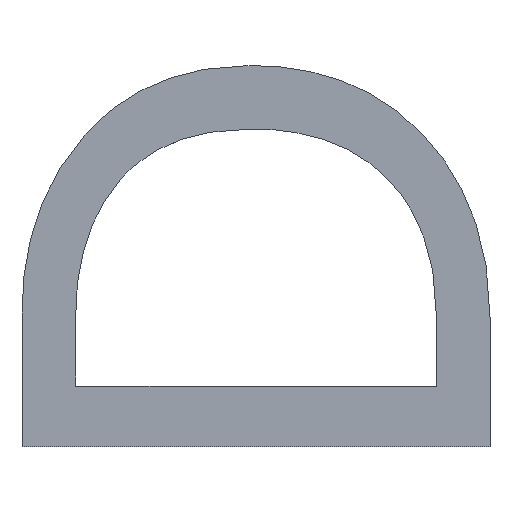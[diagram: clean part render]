
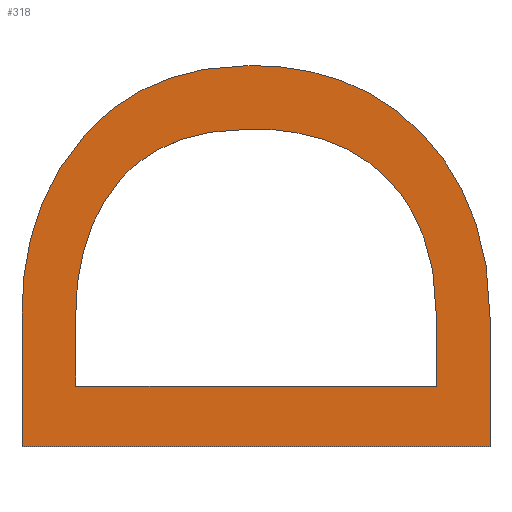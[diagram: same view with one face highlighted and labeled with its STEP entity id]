
A CAD part, top view. The second image highlights one B-rep face of the part: STEP entity #318.
In plain terms, the highlighted planar face has unit normal (0, 0, 1).
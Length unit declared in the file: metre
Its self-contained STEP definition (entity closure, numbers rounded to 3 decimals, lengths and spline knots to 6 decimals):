
#19=PLANE('',#435);
#27=LINE('',#565,#53);
#30=LINE('',#571,#56);
#32=LINE('',#574,#58);
#35=LINE('',#581,#61);
#38=LINE('',#587,#64);
#45=LINE('',#668,#71);
#53=VECTOR('',#447,1.);
#56=VECTOR('',#452,1.);
#58=VECTOR('',#456,1.);
#61=VECTOR('',#461,1.);
#64=VECTOR('',#466,1.);
#71=VECTOR('',#475,1.);
#142=ORIENTED_EDGE('',*,*,#174,.F.);
#143=ORIENTED_EDGE('',*,*,#176,.F.);
#144=ORIENTED_EDGE('',*,*,#158,.F.);
#145=ORIENTED_EDGE('',*,*,#162,.F.);
#146=ORIENTED_EDGE('',*,*,#165,.F.);
#147=ORIENTED_EDGE('',*,*,#168,.F.);
#148=ORIENTED_EDGE('',*,*,#171,.F.);
#149=ORIENTED_EDGE('',*,*,#197,.T.);
#150=ORIENTED_EDGE('',*,*,#194,.T.);
#151=ORIENTED_EDGE('',*,*,#191,.T.);
#152=ORIENTED_EDGE('',*,*,#188,.T.);
#153=ORIENTED_EDGE('',*,*,#185,.T.);
#154=ORIENTED_EDGE('',*,*,#182,.T.);
#155=ORIENTED_EDGE('',*,*,#179,.T.);
#158=EDGE_CURVE('',#200,#201,#227,.T.);
#162=EDGE_CURVE('',#203,#200,#229,.T.);
#165=EDGE_CURVE('',#205,#203,#231,.T.);
#168=EDGE_CURVE('',#207,#205,#233,.T.);
#171=EDGE_CURVE('',#209,#207,#27,.T.);
#174=EDGE_CURVE('',#211,#209,#30,.T.);
#176=EDGE_CURVE('',#201,#211,#32,.T.);
#179=EDGE_CURVE('',#215,#214,#35,.T.);
#182=EDGE_CURVE('',#217,#215,#38,.T.);
#185=EDGE_CURVE('',#219,#217,#235,.T.);
#188=EDGE_CURVE('',#221,#219,#237,.T.);
#191=EDGE_CURVE('',#223,#221,#239,.T.);
#194=EDGE_CURVE('',#225,#223,#241,.T.);
#197=EDGE_CURVE('',#214,#225,#45,.T.);
#200=VERTEX_POINT('',#496);
#201=VERTEX_POINT('',#501);
#203=VERTEX_POINT('',#517);
#205=VERTEX_POINT('',#536);
#207=VERTEX_POINT('',#555);
#209=VERTEX_POINT('',#564);
#211=VERTEX_POINT('',#570);
#214=VERTEX_POINT('',#580);
#215=VERTEX_POINT('',#582);
#217=VERTEX_POINT('',#588);
#219=VERTEX_POINT('',#607);
#221=VERTEX_POINT('',#626);
#223=VERTEX_POINT('',#645);
#225=VERTEX_POINT('',#664);
#227=B_SPLINE_CURVE_WITH_KNOTS('',3,(#497,#498,#499,#500),.UNSPECIFIED.,
 .F.,.F.,(4,4),(5.,6.),.UNSPECIFIED.);
#229=B_SPLINE_CURVE_WITH_KNOTS('',3,(#518,#519,#520,#521),.UNSPECIFIED.,
 .F.,.F.,(4,4),(4.,5.),.UNSPECIFIED.);
#231=B_SPLINE_CURVE_WITH_KNOTS('',3,(#537,#538,#539,#540),.UNSPECIFIED.,
 .F.,.F.,(4,4),(3.,4.),.UNSPECIFIED.);
#233=B_SPLINE_CURVE_WITH_KNOTS('',3,(#556,#557,#558,#559),.UNSPECIFIED.,
 .F.,.F.,(4,4),(2.,3.),.UNSPECIFIED.);
#235=B_SPLINE_CURVE_WITH_KNOTS('',3,(#603,#604,#605,#606),.UNSPECIFIED.,
 .F.,.F.,(4,4),(2.,3.),.UNSPECIFIED.);
#237=B_SPLINE_CURVE_WITH_KNOTS('',3,(#622,#623,#624,#625),.UNSPECIFIED.,
 .F.,.F.,(4,4),(3.,4.),.UNSPECIFIED.);
#239=B_SPLINE_CURVE_WITH_KNOTS('',3,(#641,#642,#643,#644),.UNSPECIFIED.,
 .F.,.F.,(4,4),(4.,5.),.UNSPECIFIED.);
#241=B_SPLINE_CURVE_WITH_KNOTS('',3,(#660,#661,#662,#663),.UNSPECIFIED.,
 .F.,.F.,(4,4),(5.,6.),.UNSPECIFIED.);
#258=EDGE_LOOP('',(#142,#143,#144,#145,#146,#147,#148));
#259=EDGE_LOOP('',(#149,#150,#151,#152,#153,#154,#155));
#276=FACE_BOUND('',#258,.T.);
#277=FACE_BOUND('',#259,.T.);
#318=ADVANCED_FACE('',(#276,#277),#19,.T.);
#435=AXIS2_PLACEMENT_3D('',#670,#478,#479);
#447=DIRECTION('',(0.,1.,0.));
#452=DIRECTION('',(1.,0.,0.));
#456=DIRECTION('',(0.,-1.,0.));
#461=DIRECTION('',(1.,0.,0.));
#466=DIRECTION('',(0.,-1.,0.));
#475=DIRECTION('',(0.,1.,0.));
#478=DIRECTION('',(0.,0.,1.));
#479=DIRECTION('',(-1.,0.,0.));
#496=CARTESIAN_POINT('',(-0.121436,-0.032244,0.01125));
#497=CARTESIAN_POINT('',(-0.121436,-0.032244,0.01125));
#498=CARTESIAN_POINT('',(-0.121443,-0.032253,0.01125));
#499=CARTESIAN_POINT('',(-0.121447,-0.032264,0.01125));
#500=CARTESIAN_POINT('',(-0.121447,-0.032279,0.01125));
#501=CARTESIAN_POINT('',(-0.121447,-0.032279,0.01125));
#517=CARTESIAN_POINT('',(-0.121401,-0.03223,0.01125));
#518=CARTESIAN_POINT('',(-0.121401,-0.03223,0.01125));
#519=CARTESIAN_POINT('',(-0.121416,-0.03223,0.01125));
#520=CARTESIAN_POINT('',(-0.121428,-0.032235,0.01125));
#521=CARTESIAN_POINT('',(-0.121436,-0.032244,0.01125));
#536=CARTESIAN_POINT('',(-0.121366,-0.032243,0.01125));
#537=CARTESIAN_POINT('',(-0.121366,-0.032243,0.01125));
#538=CARTESIAN_POINT('',(-0.121374,-0.032235,0.01125));
#539=CARTESIAN_POINT('',(-0.121386,-0.03223,0.01125));
#540=CARTESIAN_POINT('',(-0.121401,-0.03223,0.01125));
#555=CARTESIAN_POINT('',(-0.121353,-0.03228,0.01125));
#556=CARTESIAN_POINT('',(-0.121353,-0.03228,0.01125));
#557=CARTESIAN_POINT('',(-0.121353,-0.032264,0.01125));
#558=CARTESIAN_POINT('',(-0.121357,-0.032252,0.01125));
#559=CARTESIAN_POINT('',(-0.121366,-0.032243,0.01125));
#564=CARTESIAN_POINT('',(-0.121353,-0.032297,0.01125));
#565=CARTESIAN_POINT('',(-0.121353,-0.032297,0.01125));
#570=CARTESIAN_POINT('',(-0.121447,-0.032297,0.01125));
#571=CARTESIAN_POINT('',(-0.121447,-0.032297,0.01125));
#574=CARTESIAN_POINT('',(-0.121447,-0.032279,0.01125));
#580=CARTESIAN_POINT('',(-0.121339,-0.032313,0.01125));
#581=CARTESIAN_POINT('',(-0.121339,-0.032313,0.01125));
#582=CARTESIAN_POINT('',(-0.121461,-0.032313,0.01125));
#587=CARTESIAN_POINT('',(-0.121461,-0.032313,0.01125));
#588=CARTESIAN_POINT('',(-0.121461,-0.032278,0.01125));
#603=CARTESIAN_POINT('',(-0.121445,-0.032232,0.01125));
#604=CARTESIAN_POINT('',(-0.121456,-0.032244,0.01125));
#605=CARTESIAN_POINT('',(-0.121461,-0.03226,0.01125));
#606=CARTESIAN_POINT('',(-0.121461,-0.032278,0.01125));
#607=CARTESIAN_POINT('',(-0.121445,-0.032232,0.01125));
#622=CARTESIAN_POINT('',(-0.121402,-0.032214,0.01125));
#623=CARTESIAN_POINT('',(-0.12142,-0.032214,0.01125));
#624=CARTESIAN_POINT('',(-0.121434,-0.03222,0.01125));
#625=CARTESIAN_POINT('',(-0.121445,-0.032232,0.01125));
#626=CARTESIAN_POINT('',(-0.121402,-0.032214,0.01125));
#641=CARTESIAN_POINT('',(-0.121356,-0.032232,0.01125));
#642=CARTESIAN_POINT('',(-0.121368,-0.03222,0.01125));
#643=CARTESIAN_POINT('',(-0.121383,-0.032214,0.01125));
#644=CARTESIAN_POINT('',(-0.121402,-0.032214,0.01125));
#645=CARTESIAN_POINT('',(-0.121356,-0.032232,0.01125));
#660=CARTESIAN_POINT('',(-0.121339,-0.032279,0.01125));
#661=CARTESIAN_POINT('',(-0.121339,-0.03226,0.01125));
#662=CARTESIAN_POINT('',(-0.121345,-0.032244,0.01125));
#663=CARTESIAN_POINT('',(-0.121356,-0.032232,0.01125));
#664=CARTESIAN_POINT('',(-0.121339,-0.032279,0.01125));
#668=CARTESIAN_POINT('',(-0.121339,-0.032279,0.01125));
#670=CARTESIAN_POINT('',(-0.121457,-0.032253,0.01125));
